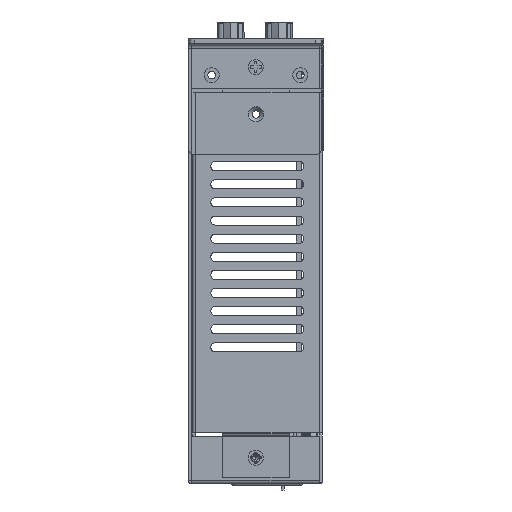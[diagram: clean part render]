
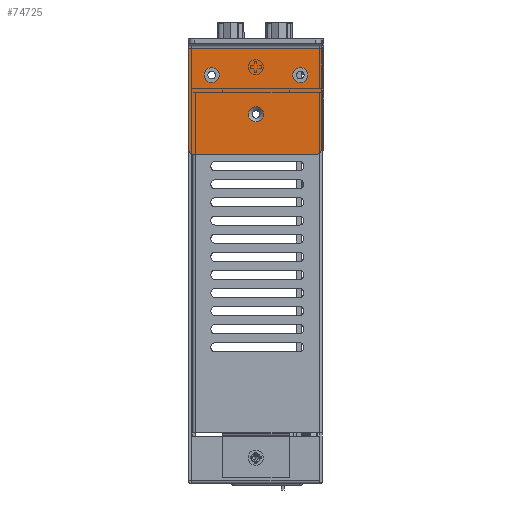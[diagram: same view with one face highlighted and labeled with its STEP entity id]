
A CAD part, left-side view. The second image highlights one B-rep face of the part: STEP entity #74725.
In plain terms, the highlighted planar face has unit normal (-1, 0, 0).
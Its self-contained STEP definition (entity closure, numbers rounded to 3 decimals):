
#1180=FACE_BOUND('',#8800,.T.);
#1181=FACE_BOUND('',#8801,.T.);
#1182=FACE_BOUND('',#8802,.T.);
#1967=CIRCLE('',#79297,2.5);
#1970=CIRCLE('',#79302,2.5);
#1973=CIRCLE('',#79307,2.5);
#1976=CIRCLE('',#79312,2.);
#1979=CIRCLE('',#79318,2.);
#4599=FACE_OUTER_BOUND('',#8799,.T.);
#8799=EDGE_LOOP('',(#49416,#49417,#49418,#49419,#49420,#49421));
#8800=EDGE_LOOP('',(#49422));
#8801=EDGE_LOOP('',(#49423));
#8802=EDGE_LOOP('',(#49424));
#13592=LINE('',#106183,#22151);
#13598=LINE('',#106200,#22157);
#13614=LINE('',#106246,#22173);
#13615=LINE('',#106249,#22174);
#22151=VECTOR('',#85483,10.);
#22157=VECTOR('',#85499,10.);
#22173=VECTOR('',#85551,10.);
#22174=VECTOR('',#85556,10.);
#30700=VERTEX_POINT('',#106140);
#30703=VERTEX_POINT('',#106150);
#30706=VERTEX_POINT('',#106160);
#30709=VERTEX_POINT('',#106170);
#30710=VERTEX_POINT('',#106171);
#30714=VERTEX_POINT('',#106181);
#30718=VERTEX_POINT('',#106193);
#30719=VERTEX_POINT('',#106194);
#30720=VERTEX_POINT('',#106199);
#38051=EDGE_CURVE('',#30700,#30700,#1967,.T.);
#38056=EDGE_CURVE('',#30703,#30703,#1970,.T.);
#38061=EDGE_CURVE('',#30706,#30706,#1973,.T.);
#38066=EDGE_CURVE('',#30709,#30710,#1976,.T.);
#38072=EDGE_CURVE('',#30709,#30714,#13592,.T.);
#38077=EDGE_CURVE('',#30718,#30719,#1979,.T.);
#38080=EDGE_CURVE('',#30720,#30719,#13598,.T.);
#38104=EDGE_CURVE('',#30714,#30720,#13614,.T.);
#38105=EDGE_CURVE('',#30718,#30710,#13615,.T.);
#49416=ORIENTED_EDGE('',*,*,#38066,.F.);
#49417=ORIENTED_EDGE('',*,*,#38072,.T.);
#49418=ORIENTED_EDGE('',*,*,#38104,.T.);
#49419=ORIENTED_EDGE('',*,*,#38080,.T.);
#49420=ORIENTED_EDGE('',*,*,#38077,.F.);
#49421=ORIENTED_EDGE('',*,*,#38105,.T.);
#49422=ORIENTED_EDGE('',*,*,#38051,.T.);
#49423=ORIENTED_EDGE('',*,*,#38056,.T.);
#49424=ORIENTED_EDGE('',*,*,#38061,.T.);
#71762=PLANE('',#79340);
#74725=ADVANCED_FACE('',(#4599,#1180,#1181,#1182),#71762,.T.);
#79297=AXIS2_PLACEMENT_3D('',#106141,#85437,#85438);
#79302=AXIS2_PLACEMENT_3D('',#106151,#85449,#85450);
#79307=AXIS2_PLACEMENT_3D('',#106161,#85461,#85462);
#79312=AXIS2_PLACEMENT_3D('',#106172,#85473,#85474);
#79318=AXIS2_PLACEMENT_3D('',#106195,#85493,#85494);
#79340=AXIS2_PLACEMENT_3D('',#106250,#85557,#85558);
#85437=DIRECTION('center_axis',(1.,0.,0.));
#85438=DIRECTION('ref_axis',(0.,-1.,0.));
#85449=DIRECTION('center_axis',(1.,0.,0.));
#85450=DIRECTION('ref_axis',(0.,-1.,0.));
#85461=DIRECTION('center_axis',(1.,0.,0.));
#85462=DIRECTION('ref_axis',(0.,-1.,0.));
#85473=DIRECTION('center_axis',(1.,0.,0.));
#85474=DIRECTION('ref_axis',(0.,-0.707,-0.707));
#85483=DIRECTION('',(0.,0.,1.));
#85493=DIRECTION('center_axis',(1.,0.,0.));
#85494=DIRECTION('ref_axis',(0.,0.707,-0.707));
#85499=DIRECTION('',(0.,0.,-1.));
#85551=DIRECTION('',(0.,1.,0.));
#85556=DIRECTION('',(0.,-1.,0.));
#85557=DIRECTION('center_axis',(-1.,0.,0.));
#85558=DIRECTION('ref_axis',(0.,0.,1.));
#106140=CARTESIAN_POINT('',(-129.85,32.2,-8.9));
#106141=CARTESIAN_POINT('Origin',(-129.85,29.7,-8.9));
#106150=CARTESIAN_POINT('',(-129.85,17.5,-21.9));
#106151=CARTESIAN_POINT('Origin',(-129.85,15.,-21.9));
#106160=CARTESIAN_POINT('',(-129.85,2.8,-8.9));
#106161=CARTESIAN_POINT('Origin',(-129.85,0.3,-8.9));
#106170=CARTESIAN_POINT('',(-129.85,-6.8,-33.3));
#106171=CARTESIAN_POINT('',(-129.85,-4.8,-35.3));
#106172=CARTESIAN_POINT('Origin',(-129.85,-4.8,-33.3));
#106181=CARTESIAN_POINT('',(-129.85,-6.8,-0.2));
#106183=CARTESIAN_POINT('',(-129.85,-6.8,3.1));
#106193=CARTESIAN_POINT('',(-129.85,35.4,-35.3));
#106194=CARTESIAN_POINT('',(-129.85,37.4,-33.3));
#106195=CARTESIAN_POINT('Origin',(-129.85,35.4,-33.3));
#106199=CARTESIAN_POINT('',(-129.85,37.4,-0.2));
#106200=CARTESIAN_POINT('',(-129.85,37.4,-35.3));
#106246=CARTESIAN_POINT('',(-129.85,4.25,-0.2));
#106249=CARTESIAN_POINT('',(-129.85,-6.8,-35.3));
#106250=CARTESIAN_POINT('Origin',(-129.85,15.3,-16.1));
